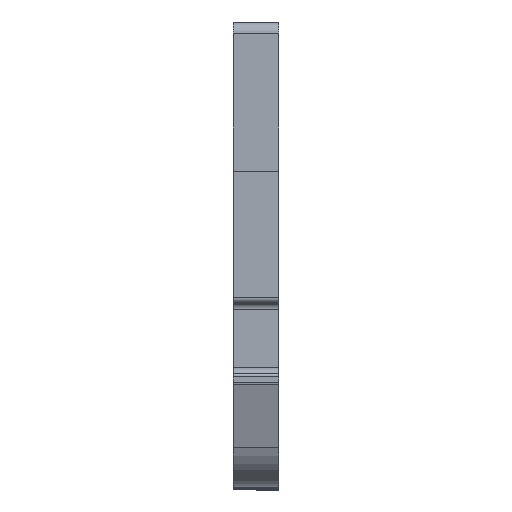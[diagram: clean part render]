
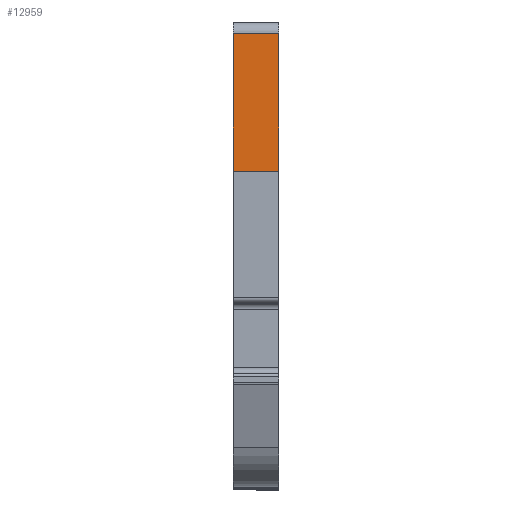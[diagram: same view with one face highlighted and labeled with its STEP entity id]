
A CAD part, top view. The second image highlights one B-rep face of the part: STEP entity #12959.
In plain terms, the highlighted planar face has unit normal (0, 0, 1).
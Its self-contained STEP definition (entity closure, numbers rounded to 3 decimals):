
#891 = PLANE ( 'NONE',  #6699 ) ;
#1505 = CARTESIAN_POINT ( 'NONE',  ( 374.64, 16.318, 339. ) ) ;
#1775 = VERTEX_POINT ( 'NONE', #2737 ) ;
#2649 = VERTEX_POINT ( 'NONE', #9061 ) ;
#2737 = CARTESIAN_POINT ( 'NONE',  ( 374.64, 4.318, 339. ) ) ;
#3071 = EDGE_CURVE ( 'NONE', #2649, #1775, #4743, .T. ) ;
#3153 = VECTOR ( 'NONE', #6065, 1000. ) ;
#3468 = VECTOR ( 'NONE', #4315, 1000. ) ;
#3865 = DIRECTION ( 'NONE',  ( -1., 0., 0. ) ) ;
#4315 = DIRECTION ( 'NONE',  ( 0., -1., 0. ) ) ;
#4356 = ORIENTED_EDGE ( 'NONE', *, *, #3071, .T. ) ;
#4743 = LINE ( 'NONE', #11512, #11647 ) ;
#5779 = DIRECTION ( 'NONE',  ( 0., -1., 0. ) ) ;
#5900 = LINE ( 'NONE', #1505, #9619 ) ;
#6065 = DIRECTION ( 'NONE',  ( -1., 0., 0. ) ) ;
#6441 = FACE_OUTER_BOUND ( 'NONE', #11429, .T. ) ;
#6699 = AXIS2_PLACEMENT_3D ( 'NONE', #12816, #15403, #12968 ) ;
#6991 = EDGE_CURVE ( 'NONE', #12949, #2649, #5900, .T. ) ;
#7100 = VERTEX_POINT ( 'NONE', #9912 ) ;
#8239 = LINE ( 'NONE', #12759, #3153 ) ;
#9061 = CARTESIAN_POINT ( 'NONE',  ( 374.64, 16.318, 339. ) ) ;
#9619 = VECTOR ( 'NONE', #3865, 1000. ) ;
#9912 = CARTESIAN_POINT ( 'NONE',  ( 378.64, 4.318, 339. ) ) ;
#11429 = EDGE_LOOP ( 'NONE', ( #4356, #13027, #12621, #14805 ) ) ;
#11512 = CARTESIAN_POINT ( 'NONE',  ( 374.64, -2.682, 339. ) ) ;
#11647 = VECTOR ( 'NONE', #5779, 1000. ) ;
#12621 = ORIENTED_EDGE ( 'NONE', *, *, #14880, .F. ) ;
#12759 = CARTESIAN_POINT ( 'NONE',  ( 384.64, 4.318, 339. ) ) ;
#12816 = CARTESIAN_POINT ( 'NONE',  ( 380.64, 4.318, 339. ) ) ;
#12949 = VERTEX_POINT ( 'NONE', #14071 ) ;
#12959 = ADVANCED_FACE ( 'NONE', ( #6441 ), #891, .F. ) ;
#12968 = DIRECTION ( 'NONE',  ( 0., 1., 0. ) ) ;
#13027 = ORIENTED_EDGE ( 'NONE', *, *, #13068, .F. ) ;
#13068 = EDGE_CURVE ( 'NONE', #7100, #1775, #8239, .T. ) ;
#13771 = CARTESIAN_POINT ( 'NONE',  ( 378.64, -2.682, 339. ) ) ;
#14071 = CARTESIAN_POINT ( 'NONE',  ( 378.64, 16.318, 339. ) ) ;
#14805 = ORIENTED_EDGE ( 'NONE', *, *, #6991, .T. ) ;
#14880 = EDGE_CURVE ( 'NONE', #12949, #7100, #15241, .T. ) ;
#15241 = LINE ( 'NONE', #13771, #3468 ) ;
#15403 = DIRECTION ( 'NONE',  ( 0., 0., -1. ) ) ;
